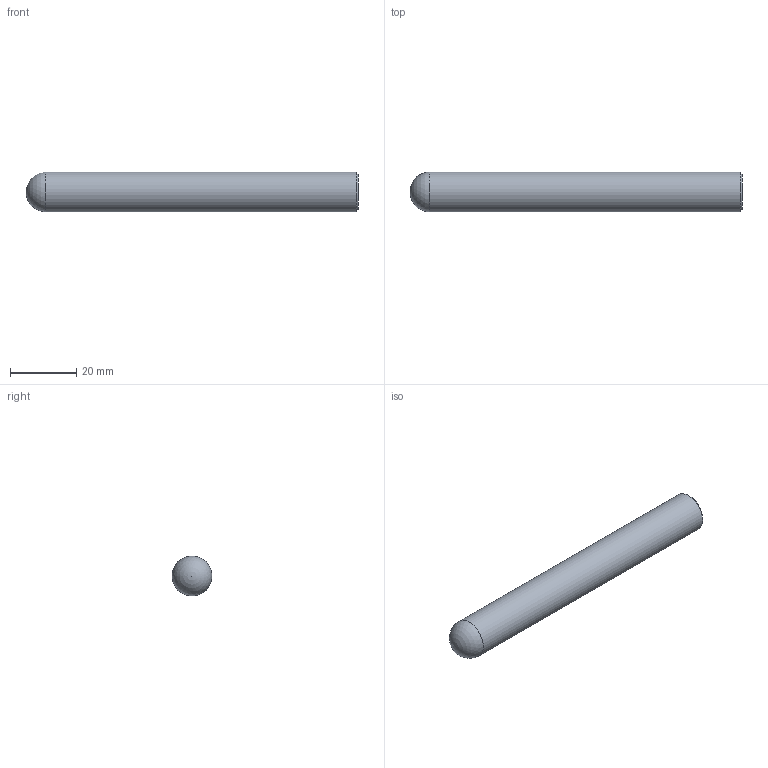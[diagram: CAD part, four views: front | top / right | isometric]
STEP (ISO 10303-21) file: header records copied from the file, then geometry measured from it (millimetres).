
FILE_DESCRIPTION(/* description */ (''),/* implementation_level */ '2;1');
FILE_NAME(/* name */ 'HSXB2120 12100.stp',/* time_stamp */ '2026-08-03T10:33:02+08:00',/* author */ (''),/* organization */ (''),/* preprocessor_version */ 'ST-DEVELOPER v16',/* originating_system */ 'SIEMENS PLM Software NX 10.0',/* authorisation */ '');
FILE_SCHEMA (('CONFIG_CONTROL_DESIGN'));
Length unit declared in the file: millimetre
Products named in the file (1): HSXB2120 12100_dxf
Bounding box: 100 x 12 x 12 mm (x, y, z)
Volume: 11077 mm3; surface area: 3869.3 mm2
Topology: 1 solids, 1 shells, 4 faces, 7 edges, 4 vertices
Faces by surface type: plane 1, sphere 1, cylinder 1, cone 1
Full cylindrical faces by diameter (mm): 12 x1
Entity records: 158 total; most frequent: DIRECTION 16, CARTESIAN_POINT 11, AXIS2_PLACEMENT_3D 8, PERSON_AND_ORGANIZATION 7, ORGANIZATION 7, EDGE_LOOP 6, ORIENTED_EDGE 6, DATE_AND_TIME 5
